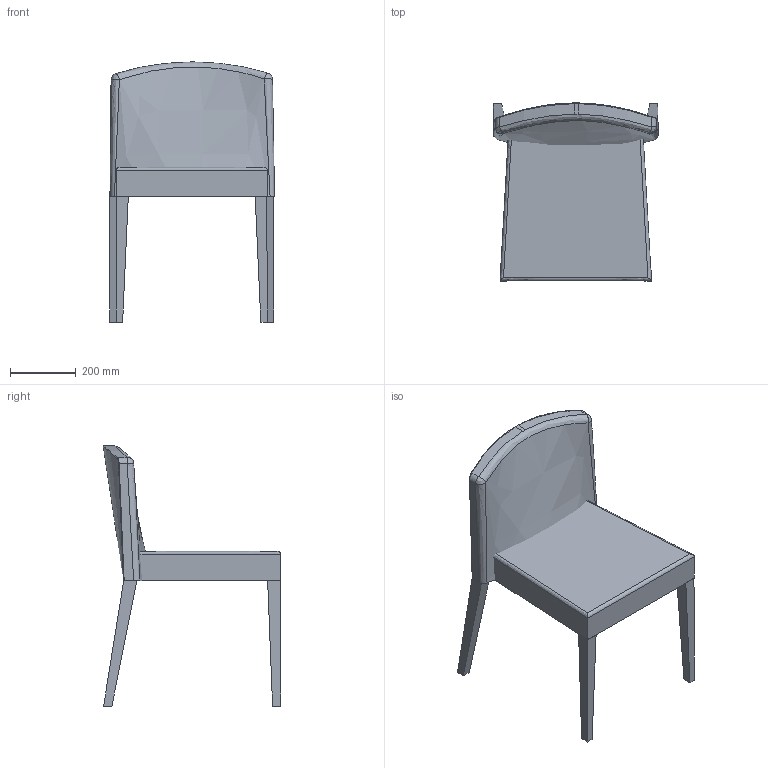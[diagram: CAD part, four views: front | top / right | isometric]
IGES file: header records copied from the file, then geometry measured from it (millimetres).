
Global section: file name: Cady  chair; native system: Autodesk Inventor 2016; preprocessor: unknown; author: Administrator; date: 20170727.093047; units: millimetre
Bounding box: 501.42 x 539.52 x 790 mm (x, y, z)
Volume: 31654714.2 mm3; surface area: 1311557.7 mm2
Topology: 8 solids, 8 shells, 64 faces, 132 edges, 84 vertices
Faces by surface type: bspline 64
